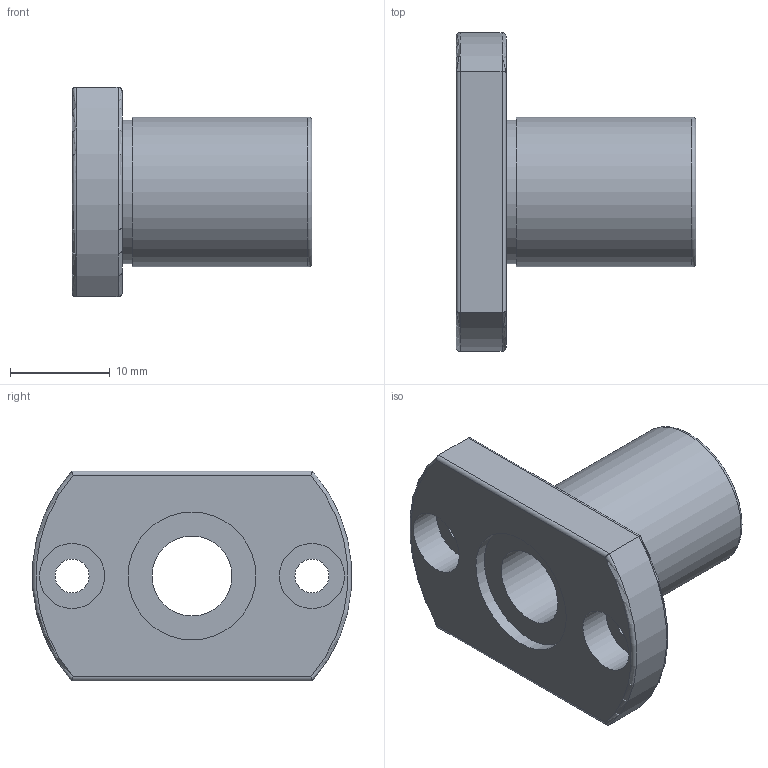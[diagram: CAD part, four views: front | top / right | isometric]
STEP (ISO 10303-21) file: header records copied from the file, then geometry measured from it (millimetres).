
FILE_DESCRIPTION( ( 'Unknown' ), '1' );
FILE_NAME( 'D:/累诀/己绕皋墨飘肺葱胶/11-04-06_档搁累己/01_府聪绢何教/LMH/LMH 8.stp', 'Unknown', ( 'Unknown' ), ( 'Unknown' ), 'PSStep 11.0', 'Unknown', ' ' );
FILE_SCHEMA( ( 'AUTOMOTIVE_DESIGN { 1 0 10303 214 1 1 1 1 }' ) );
Length unit declared in the file: millimetre
Products named in the file (1): 1
Bounding box: 24 x 31.9 x 21 mm (x, y, z)
Volume: 4791.9 mm3; surface area: 3264.7 mm2
Topology: 1 solids, 1 shells, 30 faces, 61 edges, 39 vertices
Faces by surface type: cylinder 15, plane 10, torus 5
Full cylindrical faces by diameter (mm): 3.4 x2, 6.5 x2, 8 x1, 12.791 x2, 14.4 x1, 15 x1
Entity records: 998 total; most frequent: CARTESIAN_POINT 153, DIRECTION 128, ORIENTED_EDGE 94, AXIS2_PLACEMENT_3D 58, EDGE_LOOP 52, EDGE_CURVE 47, FACE_OUTER_BOUND 40, VERTEX_POINT 35
